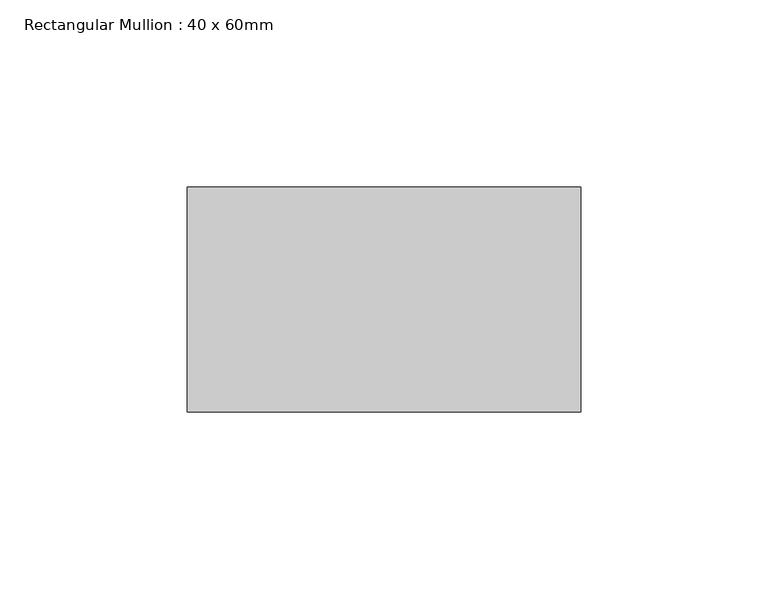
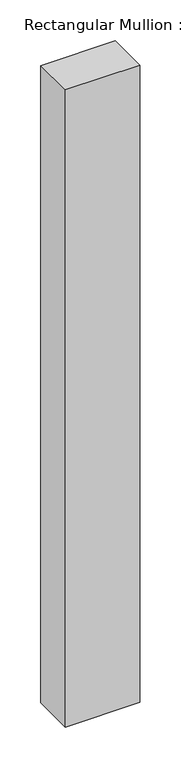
"""IFC4 building model written with IfcOpenShell, lengths in millimetres: member geometry, Rectangular Mullion : 40 x 60mm."""

from ifc_helpers import new_model, si_unit, frame, origin, place, context, project, spatial, polyline, outline, extrude, source, transform, mapped, element, save


def rectangular_mullion_40_x_60mm_cbef5767(model_context):
    return source(origin(), model_context, "Body", "SweptSolid", [
        extrude(outline(polyline([(0.0, -10.0), (0.0, -70.0), (-105.0, -70.0), (-105.0, -10.0), (0.0, -10.0)])), frame((0.0, 0.0, -949.9829486), z_axis=(0.0, 0.0, 1.0), x_axis=(1.0, 0.0, 0.0)), (0.0, 0.0, 1.0), 949.9829486),
    ])


if __name__ == "__main__":
    model = new_model("IFC4")
    model_context = context("Model", 3, world=origin())
    ifc_project = project(units=[si_unit("LENGTHUNIT", "METRE", prefix="MILLI")], contexts=[model_context])
    site = spatial("IfcSite", under=ifc_project)
    building = spatial("IfcBuilding", under=site)
    placement = place(None, origin())
    rectangular_mullion_40_x_60mm_shape = rectangular_mullion_40_x_60mm_cbef5767(model_context)
    element("IfcMember", 1, ObjectType="Rectangular Mullion : 40 x 60mm", at=placement, inside=building, context=model_context, shape_type="MappedRepresentation", body=[
        mapped(rectangular_mullion_40_x_60mm_shape, transform((0.0, 0.0, 0.0), x_axis=(1.0, 0.0, 0.0), y_axis=(0.0, 1.0, 0.0), z_axis=(0.0, 0.0, 1.0))),
    ])
    save(model, "model.ifc")
